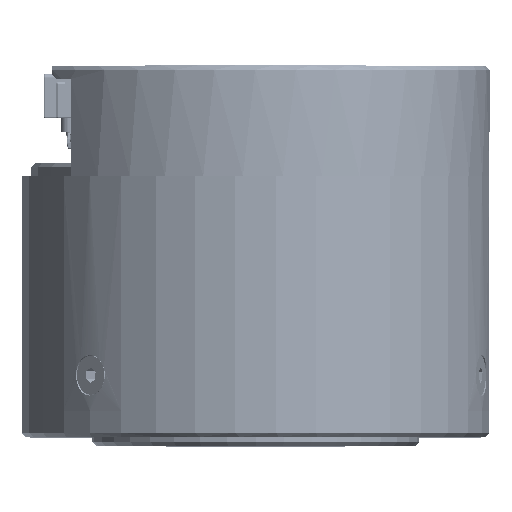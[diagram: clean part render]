
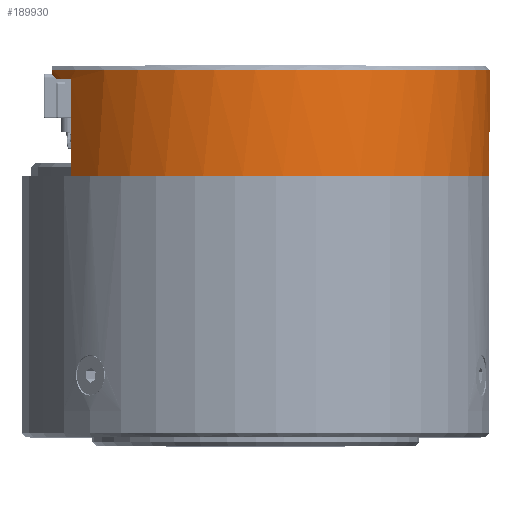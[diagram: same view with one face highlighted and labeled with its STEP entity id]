
A CAD part, top view. The second image highlights one B-rep face of the part: STEP entity #189930.
In plain terms, the highlighted cylindrical face has radius 26.5 mm (diameter 53 mm), a partial arc.
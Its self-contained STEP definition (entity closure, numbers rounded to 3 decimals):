
#1950 = VERTEX_POINT ( 'NONE', #565366 ) ;
#7850 = EDGE_CURVE ( 'NONE', #311466, #458359, #252172, .T. ) ;
#15929 = EDGE_LOOP ( 'NONE', ( #556241, #252394, #582641, #525269, #227570, #69037, #99692, #582552, #328955, #400492, #214792 ) ) ;
#23360 = CIRCLE ( 'NONE', #609060, 26.5 ) ;
#30984 = FACE_OUTER_BOUND ( 'NONE', #15929, .T. ) ;
#48077 = AXIS2_PLACEMENT_3D ( 'NONE', #345884, #579049, #62893 ) ;
#49640 = CARTESIAN_POINT ( 'NONE',  ( 0., 0.5, 26.5 ) ) ;
#53705 =( BOUNDED_CURVE ( )  B_SPLINE_CURVE ( 3, ( #310739, #500411, #264111, #453747 ),
 .UNSPECIFIED., .F., .F. ) 
 B_SPLINE_CURVE_WITH_KNOTS ( ( 4, 4 ),
 ( 0.52, 0.557 ),
 .UNSPECIFIED. ) 
 CURVE ( )  GEOMETRIC_REPRESENTATION_ITEM ( )  RATIONAL_B_SPLINE_CURVE ( ( 1., 1., 1., 1. ) ) 
 REPRESENTATION_ITEM ( '' )  );
#54368 = CARTESIAN_POINT ( 'NONE',  ( -14., 1.5, -22.5 ) ) ;
#54728 = AXIS2_PLACEMENT_3D ( 'NONE', #554418, #178212, #122392 ) ;
#58279 = CIRCLE ( 'NONE', #48077, 26.5 ) ;
#60547 = CARTESIAN_POINT ( 'NONE',  ( 13.162, 12.5, -23. ) ) ;
#62893 = DIRECTION ( 'NONE',  ( 0., 0., 1. ) ) ;
#69037 = ORIENTED_EDGE ( 'NONE', *, *, #7850, .T. ) ;
#74663 = CIRCLE ( 'NONE', #54728, 26.5 ) ;
#76446 = VERTEX_POINT ( 'NONE', #215904 ) ;
#99692 = ORIENTED_EDGE ( 'NONE', *, *, #328295, .T. ) ;
#110204 = CARTESIAN_POINT ( 'NONE',  ( 16.283, 12.5, -20.907 ) ) ;
#122392 = DIRECTION ( 'NONE',  ( 0., 0., 1. ) ) ;
#136566 = EDGE_CURVE ( 'NONE', #559459, #410360, #23360, .T. ) ;
#150498 = VERTEX_POINT ( 'NONE', #330411 ) ;
#159898 = VERTEX_POINT ( 'NONE', #488398 ) ;
#164057 = VECTOR ( 'NONE', #230509, 1000. ) ;
#178212 = DIRECTION ( 'NONE',  ( 0., 1., 0. ) ) ;
#184959 = EDGE_CURVE ( 'NONE', #1950, #188917, #272258, .T. ) ;
#185263 = AXIS2_PLACEMENT_3D ( 'NONE', #500389, #444478, #453721 ) ;
#188917 = VERTEX_POINT ( 'NONE', #604503 ) ;
#189930 = ADVANCED_FACE ( 'NONE', ( #30984 ), #310712, .T. ) ;
#214792 = ORIENTED_EDGE ( 'NONE', *, *, #390803, .T. ) ;
#215904 = CARTESIAN_POINT ( 'NONE',  ( 13.162, 0.5, -23. ) ) ;
#216502 = EDGE_CURVE ( 'NONE', #546560, #159898, #393116, .T. ) ;
#227570 = ORIENTED_EDGE ( 'NONE', *, *, #230596, .F. ) ;
#230509 = DIRECTION ( 'NONE',  ( 0., -1., 0. ) ) ;
#230596 = EDGE_CURVE ( 'NONE', #311466, #188917, #58279, .T. ) ;
#231064 = DIRECTION ( 'NONE',  ( 0., 0., 1. ) ) ;
#243866 = CARTESIAN_POINT ( 'NONE',  ( -13.724, 1.328, -22.672 ) ) ;
#252172 =( BOUNDED_CURVE ( )  B_SPLINE_CURVE ( 3, ( #54368, #243866, #433494, #576603 ),
 .UNSPECIFIED., .F., .F. ) 
 B_SPLINE_CURVE_WITH_KNOTS ( ( 4, 4 ),
 ( 5.727, 5.763 ),
 .UNSPECIFIED. ) 
 CURVE ( )  GEOMETRIC_REPRESENTATION_ITEM ( )  RATIONAL_B_SPLINE_CURVE ( ( 1., 1., 1., 1. ) ) 
 REPRESENTATION_ITEM ( '' )  );
#252394 = ORIENTED_EDGE ( 'NONE', *, *, #216502, .T. ) ;
#260564 = DIRECTION ( 'NONE',  ( 0., 0., 1. ) ) ;
#263348 = DIRECTION ( 'NONE',  ( 0., 0., 1. ) ) ;
#264111 = CARTESIAN_POINT ( 'NONE',  ( 13.724, 1.328, -22.672 ) ) ;
#272258 = LINE ( 'NONE', #549132, #277528 ) ;
#274594 = EDGE_CURVE ( 'NONE', #410360, #76446, #74663, .T. ) ;
#277528 = VECTOR ( 'NONE', #555280, 1000. ) ;
#284162 = CIRCLE ( 'NONE', #304076, 26.5 ) ;
#290665 = LINE ( 'NONE', #60547, #446670 ) ;
#304076 = AXIS2_PLACEMENT_3D ( 'NONE', #406310, #359704, #263348 ) ;
#310292 = DIRECTION ( 'NONE',  ( 0., 1., 0. ) ) ;
#310712 = CYLINDRICAL_SURFACE ( 'NONE', #185263, 26.5 ) ;
#310739 = CARTESIAN_POINT ( 'NONE',  ( 13.162, 1., -23. ) ) ;
#311466 = VERTEX_POINT ( 'NONE', #593309 ) ;
#312100 = DIRECTION ( 'NONE',  ( 0., 1., 0. ) ) ;
#328295 = EDGE_CURVE ( 'NONE', #458359, #559459, #554148, .T. ) ;
#328955 = ORIENTED_EDGE ( 'NONE', *, *, #274594, .T. ) ;
#330411 = CARTESIAN_POINT ( 'NONE',  ( 14., 1.5, -22.5 ) ) ;
#331982 = EDGE_CURVE ( 'NONE', #1950, #159898, #423431, .T. ) ;
#345884 = CARTESIAN_POINT ( 'NONE',  ( 0., 1.5, 0. ) ) ;
#359704 = DIRECTION ( 'NONE',  ( 0., 1., 0. ) ) ;
#376789 = CARTESIAN_POINT ( 'NONE',  ( -13.162, 12.5, -23. ) ) ;
#379407 = VECTOR ( 'NONE', #312100, 1000. ) ;
#390803 = EDGE_CURVE ( 'NONE', #566462, #150498, #53705, .T. ) ;
#393116 = LINE ( 'NONE', #110204, #379407 ) ;
#393814 = AXIS2_PLACEMENT_3D ( 'NONE', #400525, #310292, #260564 ) ;
#400492 = ORIENTED_EDGE ( 'NONE', *, *, #593301, .T. ) ;
#400525 = CARTESIAN_POINT ( 'NONE',  ( 0., 12.5, 0. ) ) ;
#402495 = DIRECTION ( 'NONE',  ( 0., 1., 0. ) ) ;
#402960 = CARTESIAN_POINT ( 'NONE',  ( 16.283, 1.5, -20.907 ) ) ;
#406310 = CARTESIAN_POINT ( 'NONE',  ( 0., 1.5, 0. ) ) ;
#410360 = VERTEX_POINT ( 'NONE', #49640 ) ;
#423431 = CIRCLE ( 'NONE', #393814, 26.5 ) ;
#433494 = CARTESIAN_POINT ( 'NONE',  ( -13.445, 1.162, -22.838 ) ) ;
#444478 = DIRECTION ( 'NONE',  ( 0., -1., 0. ) ) ;
#446670 = VECTOR ( 'NONE', #573658, 1000. ) ;
#449138 = CARTESIAN_POINT ( 'NONE',  ( 0., 0.5, 0. ) ) ;
#453721 = DIRECTION ( 'NONE',  ( 0., 0., -1. ) ) ;
#453747 = CARTESIAN_POINT ( 'NONE',  ( 14., 1.5, -22.5 ) ) ;
#458359 = VERTEX_POINT ( 'NONE', #568272 ) ;
#480913 = EDGE_CURVE ( 'NONE', #546560, #150498, #284162, .T. ) ;
#488398 = CARTESIAN_POINT ( 'NONE',  ( 16.283, 12.5, -20.907 ) ) ;
#500389 = CARTESIAN_POINT ( 'NONE',  ( 0., 12.5, 0. ) ) ;
#500411 = CARTESIAN_POINT ( 'NONE',  ( 13.445, 1.162, -22.838 ) ) ;
#525269 = ORIENTED_EDGE ( 'NONE', *, *, #184959, .T. ) ;
#546560 = VERTEX_POINT ( 'NONE', #402960 ) ;
#549132 = CARTESIAN_POINT ( 'NONE',  ( -16.283, 12.5, -20.907 ) ) ;
#554148 = LINE ( 'NONE', #376789, #164057 ) ;
#554418 = CARTESIAN_POINT ( 'NONE',  ( 0., 0.5, 0. ) ) ;
#555280 = DIRECTION ( 'NONE',  ( 0., -1., 0. ) ) ;
#556241 = ORIENTED_EDGE ( 'NONE', *, *, #480913, .F. ) ;
#559459 = VERTEX_POINT ( 'NONE', #570695 ) ;
#562515 = CARTESIAN_POINT ( 'NONE',  ( 13.162, 1., -23. ) ) ;
#565366 = CARTESIAN_POINT ( 'NONE',  ( -16.283, 12.5, -20.907 ) ) ;
#566462 = VERTEX_POINT ( 'NONE', #562515 ) ;
#568272 = CARTESIAN_POINT ( 'NONE',  ( -13.162, 1., -23. ) ) ;
#570695 = CARTESIAN_POINT ( 'NONE',  ( -13.162, 0.5, -23. ) ) ;
#573658 = DIRECTION ( 'NONE',  ( 0., 1., 0. ) ) ;
#576603 = CARTESIAN_POINT ( 'NONE',  ( -13.162, 1., -23. ) ) ;
#579049 = DIRECTION ( 'NONE',  ( 0., 1., 0. ) ) ;
#582552 = ORIENTED_EDGE ( 'NONE', *, *, #136566, .T. ) ;
#582641 = ORIENTED_EDGE ( 'NONE', *, *, #331982, .F. ) ;
#593301 = EDGE_CURVE ( 'NONE', #76446, #566462, #290665, .T. ) ;
#593309 = CARTESIAN_POINT ( 'NONE',  ( -14., 1.5, -22.5 ) ) ;
#604503 = CARTESIAN_POINT ( 'NONE',  ( -16.283, 1.5, -20.907 ) ) ;
#609060 = AXIS2_PLACEMENT_3D ( 'NONE', #449138, #402495, #231064 ) ;
